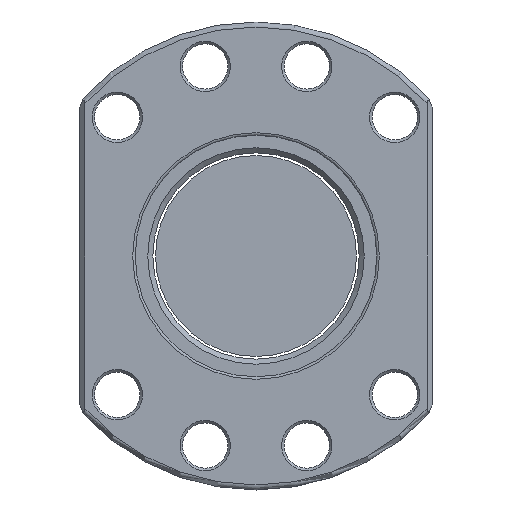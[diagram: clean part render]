
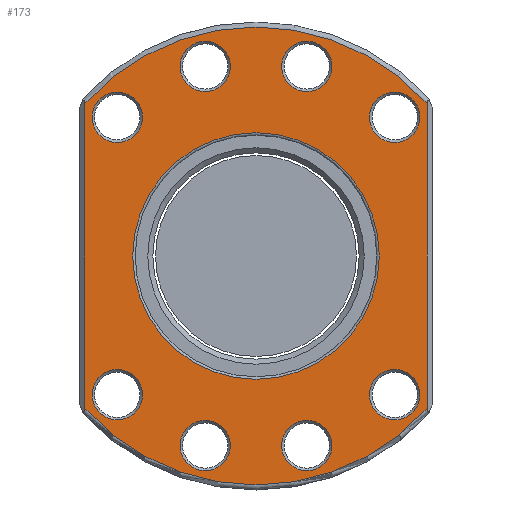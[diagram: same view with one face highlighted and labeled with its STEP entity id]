
A CAD part, front view. The second image highlights one B-rep face of the part: STEP entity #173.
In plain terms, the highlighted planar face has unit normal (0, -1, 0).
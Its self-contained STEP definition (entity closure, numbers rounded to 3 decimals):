
#64=LINE('',#1267,#88);
#65=LINE('',#1271,#89);
#88=VECTOR('',#1022,1.);
#89=VECTOR('',#1025,1.);
#136=PLANE('',#888);
#173=ADVANCED_FACE('',(#246,#247,#248,#249,#250,#251,#252,#253,#254,#255),
#136,.F.);
#246=FACE_BOUND('',#342,.T.);
#247=FACE_BOUND('',#343,.T.);
#248=FACE_BOUND('',#344,.T.);
#249=FACE_BOUND('',#345,.T.);
#250=FACE_BOUND('',#346,.T.);
#251=FACE_BOUND('',#347,.T.);
#252=FACE_BOUND('',#348,.T.);
#253=FACE_BOUND('',#349,.T.);
#254=FACE_BOUND('',#350,.T.);
#255=FACE_BOUND('',#351,.T.);
#342=EDGE_LOOP('',(#454));
#343=EDGE_LOOP('',(#455));
#344=EDGE_LOOP('',(#456));
#345=EDGE_LOOP('',(#457));
#346=EDGE_LOOP('',(#458));
#347=EDGE_LOOP('',(#459));
#348=EDGE_LOOP('',(#460));
#349=EDGE_LOOP('',(#461));
#350=EDGE_LOOP('',(#462));
#351=EDGE_LOOP('',(#463,#464,#465,#466));
#454=ORIENTED_EDGE('',*,*,#721,.T.);
#455=ORIENTED_EDGE('',*,*,#722,.T.);
#456=ORIENTED_EDGE('',*,*,#723,.T.);
#457=ORIENTED_EDGE('',*,*,#724,.T.);
#458=ORIENTED_EDGE('',*,*,#725,.T.);
#459=ORIENTED_EDGE('',*,*,#726,.T.);
#460=ORIENTED_EDGE('',*,*,#727,.T.);
#461=ORIENTED_EDGE('',*,*,#728,.T.);
#462=ORIENTED_EDGE('',*,*,#729,.T.);
#463=ORIENTED_EDGE('',*,*,#730,.T.);
#464=ORIENTED_EDGE('',*,*,#731,.T.);
#465=ORIENTED_EDGE('',*,*,#732,.T.);
#466=ORIENTED_EDGE('',*,*,#733,.T.);
#642=VERTEX_POINT('',#1247);
#643=VERTEX_POINT('',#1249);
#644=VERTEX_POINT('',#1251);
#645=VERTEX_POINT('',#1253);
#646=VERTEX_POINT('',#1255);
#647=VERTEX_POINT('',#1257);
#648=VERTEX_POINT('',#1259);
#649=VERTEX_POINT('',#1261);
#650=VERTEX_POINT('',#1263);
#651=VERTEX_POINT('',#1265);
#652=VERTEX_POINT('',#1266);
#653=VERTEX_POINT('',#1268);
#654=VERTEX_POINT('',#1270);
#721=EDGE_CURVE('',#642,#642,#816,.T.);
#722=EDGE_CURVE('',#643,#643,#817,.T.);
#723=EDGE_CURVE('',#644,#644,#818,.T.);
#724=EDGE_CURVE('',#645,#645,#819,.T.);
#725=EDGE_CURVE('',#646,#646,#820,.T.);
#726=EDGE_CURVE('',#647,#647,#821,.T.);
#727=EDGE_CURVE('',#648,#648,#822,.T.);
#728=EDGE_CURVE('',#649,#649,#823,.T.);
#729=EDGE_CURVE('',#650,#650,#824,.T.);
#730=EDGE_CURVE('',#651,#652,#825,.T.);
#731=EDGE_CURVE('',#652,#653,#64,.T.);
#732=EDGE_CURVE('',#653,#654,#826,.T.);
#733=EDGE_CURVE('',#654,#651,#65,.T.);
#816=CIRCLE('',#877,5.);
#817=CIRCLE('',#878,5.);
#818=CIRCLE('',#879,5.);
#819=CIRCLE('',#880,5.);
#820=CIRCLE('',#881,5.);
#821=CIRCLE('',#882,5.);
#822=CIRCLE('',#883,5.);
#823=CIRCLE('',#884,5.);
#824=CIRCLE('',#885,24.5);
#825=CIRCLE('',#886,45.5);
#826=CIRCLE('',#887,45.5);
#877=AXIS2_PLACEMENT_3D('',#1246,#1002,#1003);
#878=AXIS2_PLACEMENT_3D('',#1248,#1004,#1005);
#879=AXIS2_PLACEMENT_3D('',#1250,#1006,#1007);
#880=AXIS2_PLACEMENT_3D('',#1252,#1008,#1009);
#881=AXIS2_PLACEMENT_3D('',#1254,#1010,#1011);
#882=AXIS2_PLACEMENT_3D('',#1256,#1012,#1013);
#883=AXIS2_PLACEMENT_3D('',#1258,#1014,#1015);
#884=AXIS2_PLACEMENT_3D('',#1260,#1016,#1017);
#885=AXIS2_PLACEMENT_3D('',#1262,#1018,#1019);
#886=AXIS2_PLACEMENT_3D('',#1264,#1020,#1021);
#887=AXIS2_PLACEMENT_3D('',#1269,#1023,#1024);
#888=AXIS2_PLACEMENT_3D('',#1272,#1026,#1027);
#1002=DIRECTION('',(0.,1.,0.));
#1003=DIRECTION('',(0.,0.,1.));
#1004=DIRECTION('',(0.,1.,0.));
#1005=DIRECTION('',(0.,0.,1.));
#1006=DIRECTION('',(0.,1.,0.));
#1007=DIRECTION('',(0.,0.,1.));
#1008=DIRECTION('',(0.,1.,0.));
#1009=DIRECTION('',(0.,0.,1.));
#1010=DIRECTION('',(0.,1.,0.));
#1011=DIRECTION('',(0.,0.,1.));
#1012=DIRECTION('',(0.,1.,0.));
#1013=DIRECTION('',(0.,0.,1.));
#1014=DIRECTION('',(0.,1.,0.));
#1015=DIRECTION('',(0.,0.,1.));
#1016=DIRECTION('',(0.,1.,0.));
#1017=DIRECTION('',(0.,0.,1.));
#1018=DIRECTION('',(0.,1.,0.));
#1019=DIRECTION('',(0.,0.,1.));
#1020=DIRECTION('',(0.,-1.,0.));
#1021=DIRECTION('',(0.,0.,1.));
#1022=DIRECTION('',(0.,0.,-1.));
#1023=DIRECTION('',(0.,-1.,0.));
#1024=DIRECTION('',(0.,0.,1.));
#1025=DIRECTION('',(0.,0.,1.));
#1026=DIRECTION('',(0.,1.,0.));
#1027=DIRECTION('',(0.,0.,1.));
#1246=CARTESIAN_POINT('',(-27.577,0.,-27.577));
#1247=CARTESIAN_POINT('',(-27.577,0.,-22.577));
#1248=CARTESIAN_POINT('',(27.577,0.,27.577));
#1249=CARTESIAN_POINT('',(27.577,0.,32.577));
#1250=CARTESIAN_POINT('',(10.094,0.,-37.671));
#1251=CARTESIAN_POINT('',(10.094,0.,-32.671));
#1252=CARTESIAN_POINT('',(27.577,0.,-27.577));
#1253=CARTESIAN_POINT('',(27.577,0.,-22.577));
#1254=CARTESIAN_POINT('',(10.094,0.,37.671));
#1255=CARTESIAN_POINT('',(10.094,0.,42.671));
#1256=CARTESIAN_POINT('',(-27.577,0.,27.577));
#1257=CARTESIAN_POINT('',(-27.577,0.,32.577));
#1258=CARTESIAN_POINT('',(-10.094,0.,-37.671));
#1259=CARTESIAN_POINT('',(-10.094,0.,-32.671));
#1260=CARTESIAN_POINT('',(-10.094,0.,37.671));
#1261=CARTESIAN_POINT('',(-10.094,0.,42.671));
#1262=CARTESIAN_POINT('',(0.,0.,0.));
#1263=CARTESIAN_POINT('',(0.,0.,24.5));
#1264=CARTESIAN_POINT('',(0.,0.,0.));
#1265=CARTESIAN_POINT('',(34.,0.,30.237));
#1266=CARTESIAN_POINT('',(-34.,0.,30.237));
#1267=CARTESIAN_POINT('',(-34.,0.,-29.073));
#1268=CARTESIAN_POINT('',(-34.,0.,-30.237));
#1269=CARTESIAN_POINT('',(0.,0.,0.));
#1270=CARTESIAN_POINT('',(34.,0.,-30.237));
#1271=CARTESIAN_POINT('',(34.,0.,29.073));
#1272=CARTESIAN_POINT('',(0.,0.,0.));
